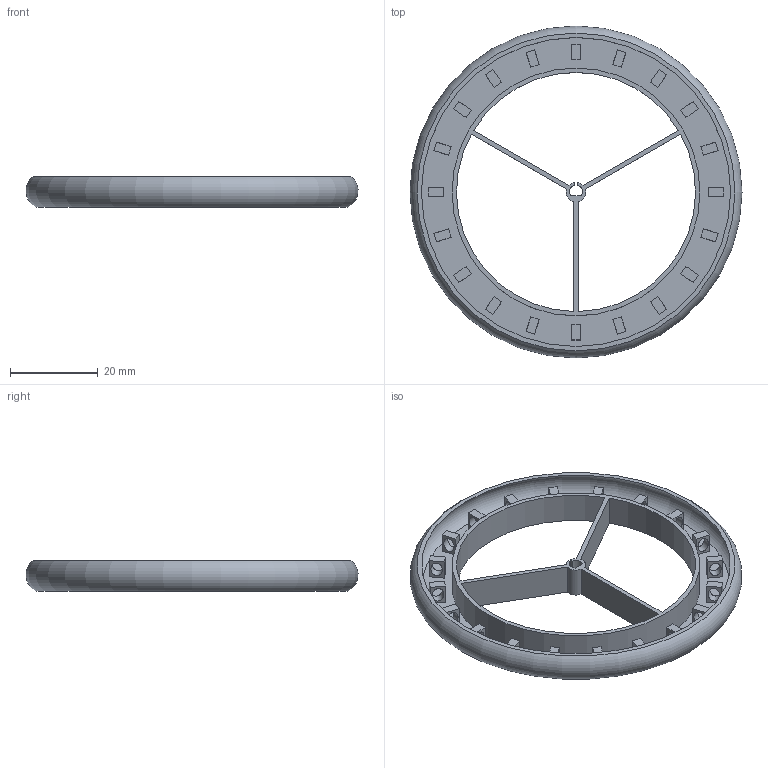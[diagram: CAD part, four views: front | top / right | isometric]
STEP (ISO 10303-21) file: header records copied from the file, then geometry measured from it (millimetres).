
FILE_DESCRIPTION(/* description */ (''),/* implementation_level */ '2;1');
FILE_NAME(/* name */ 'C:/Users/priba/Documents/Temp/Backup/Wheel 3-70 v4.step',/* time_stamp */ '2019-07-02T17:35:00+02:00',/* author */ (''),/* organization */ (''),/* preprocessor_version */ 'ST-DEVELOPER v18',/* originating_system */ 'Autodesk Translation Framework v8.2.0.1029',/* authorisation */ '');
FILE_SCHEMA (('AUTOMOTIVE_DESIGN { 1 0 10303 214 3 1 1 }'));
Length unit declared in the file: millimetre
Products named in the file (1): Wheel 3-70
Bounding box: 75.83 x 75.83 x 7 mm (x, y, z)
Volume: 3850.7 mm3; surface area: 12071 mm2
Topology: 1 solids, 1 shells, 145 faces, 369 edges, 248 vertices
Faces by surface type: plane 113, bspline 20, cylinder 10, torus 2
Full cylindrical faces by diameter (mm): 56.6 x1
Entity records: 4737 total; most frequent: CARTESIAN_POINT 1103, ORIENTED_EDGE 738, DIRECTION 693, EDGE_CURVE 369, LINE 297, VECTOR 297, VERTEX_POINT 248, EDGE_LOOP 213
